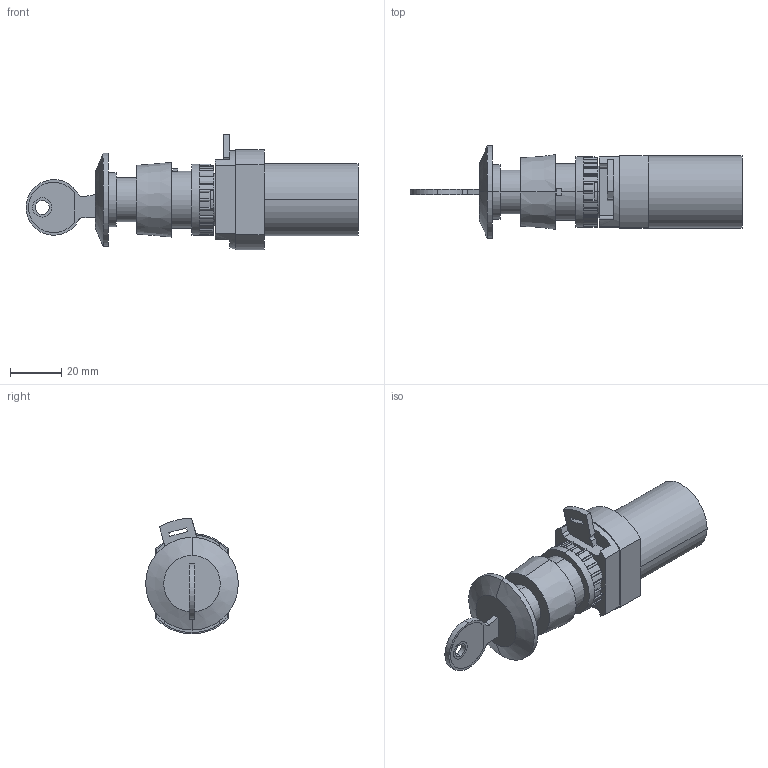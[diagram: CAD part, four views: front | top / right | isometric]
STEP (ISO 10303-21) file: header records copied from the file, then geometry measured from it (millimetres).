
FILE_DESCRIPTION (( 'STEP AP203' ), '1' );
FILE_NAME ('18-T-23-015_T-30-510-Airtec.step', '2006-10-31T13:17:14', ( 'Gustaf Hederström' ), ( 'Cevican AB' ), 'SwSTEP 2.0', 'SolidWorks 2002308', '' );
FILE_SCHEMA (( 'CONFIG_CONTROL_DESIGN' ));
Length unit declared in the file: millimetre
Products named in the file (3): 18-T-23-015_T-30-510-Airtec; 18-T-23-015-Airtec; T-30-510-Airtec
Assembly tree (2 placements, depth 2):
  18-T-23-015_T-30-510-Airtec
    T-30-510-Airtec
    18-T-23-015-Airtec
Bounding box: 129 x 36 x 45 mm (x, y, z)
Volume: 61007.1 mm3; surface area: 17759.5 mm2
Topology: 2 solids, 2 shells, 425 faces, 1156 edges, 750 vertices
Faces by surface type: plane 221, cylinder 188, cone 16
Entity records: 13755 total; most frequent: DIRECTION 2462, CARTESIAN_POINT 2329, ORIENTED_EDGE 2292, EDGE_CURVE 1146, AXIS2_PLACEMENT_3D 887, VERTEX_POINT 750, LINE 688, VECTOR 688
